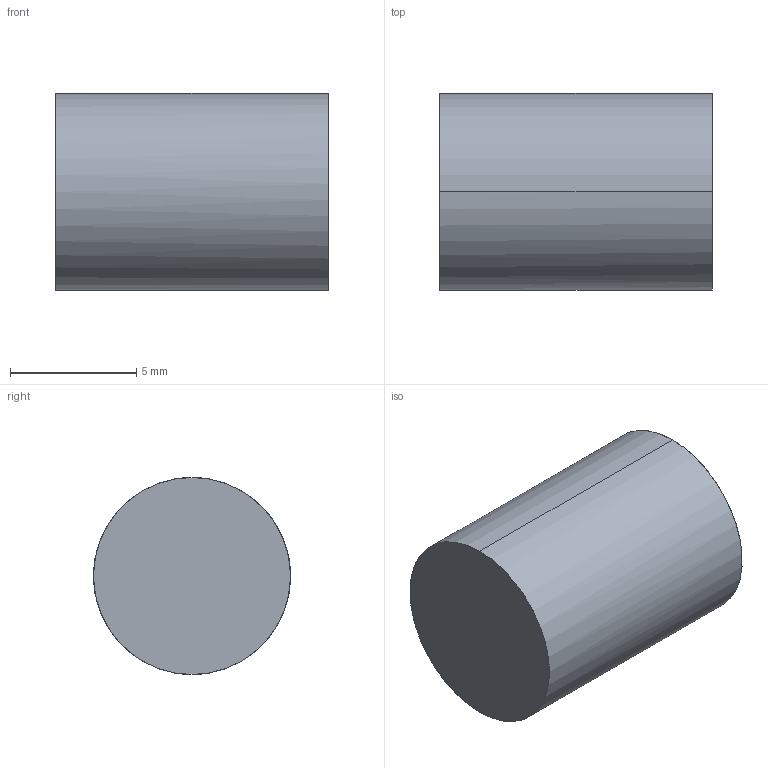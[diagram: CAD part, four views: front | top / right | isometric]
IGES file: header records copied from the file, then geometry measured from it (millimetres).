
Start section: START RECORD GO HERE.
Global section: file name: _NPart#1043.igs; native system: IBM CATIA IGES - CATIA Version 5 Release 18 ; preprocessor: CATIA Version 5 Release 18 ; author: Propriétaire; organization: FUJITSU-79916BB; date: 20090111.155018; units: millimetre
Bounding box: 10.8 x 7.8 x 7.8 mm (x, y, z)
Surface area: 360.2 mm2 (no closed solid volume)
Topology: 0 solids, 0 shells, 4 faces, 12 edges, 12 vertices
Faces by surface type: revolution 2, plane 2
